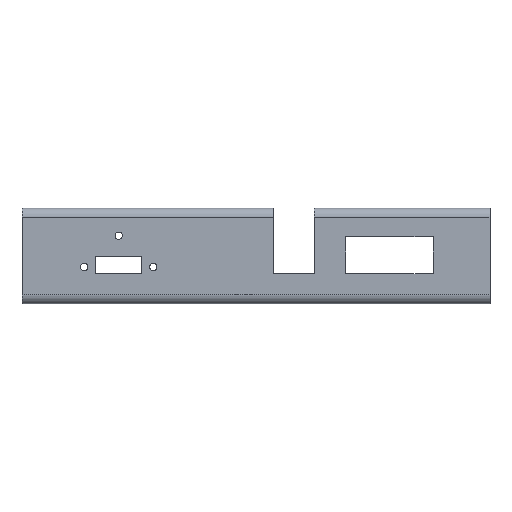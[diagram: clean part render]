
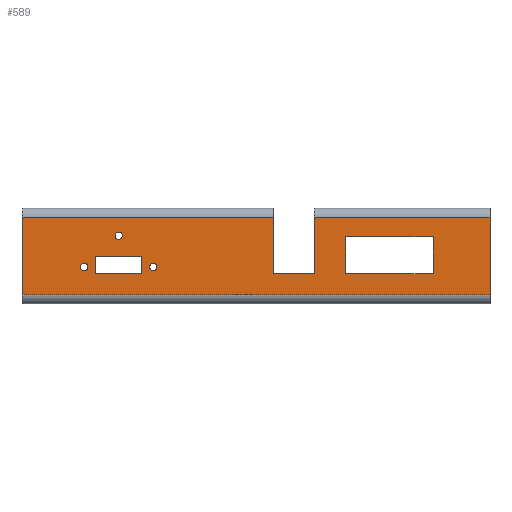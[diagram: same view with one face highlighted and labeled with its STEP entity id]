
A CAD part, front view. The second image highlights one B-rep face of the part: STEP entity #589.
In plain terms, the highlighted planar face has unit normal (0, -1, 0).
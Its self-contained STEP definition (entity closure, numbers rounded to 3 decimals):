
#168 = VERTEX_POINT('',#169);
#169 = CARTESIAN_POINT('',(101.6,0.,0.));
#366 = VERTEX_POINT('',#367);
#367 = CARTESIAN_POINT('',(0.,0.,0.));
#374 = EDGE_CURVE('',#168,#366,#375,.T.);
#375 = LINE('',#376,#377);
#376 = CARTESIAN_POINT('',(101.6,0.,0.));
#377 = VECTOR('',#378,1.);
#378 = DIRECTION('',(-1.,-0.,0.));
#389 = VERTEX_POINT('',#390);
#390 = CARTESIAN_POINT('',(101.6,0.,16.8));
#405 = EDGE_CURVE('',#389,#168,#406,.T.);
#406 = LINE('',#407,#408);
#407 = CARTESIAN_POINT('',(101.6,0.,16.8));
#408 = VECTOR('',#409,1.);
#409 = DIRECTION('',(0.,0.,-1.));
#589 = ADVANCED_FACE('',(#590,#640,#651,#685,#696,#707),#741,.F.);
#590 = FACE_BOUND('',#591,.F.);
#591 = EDGE_LOOP('',(#592,#600,#608,#616,#624,#632,#638,#639));
#592 = ORIENTED_EDGE('',*,*,#593,.T.);
#593 = EDGE_CURVE('',#366,#594,#596,.T.);
#594 = VERTEX_POINT('',#595);
#595 = CARTESIAN_POINT('',(0.,0.,16.8));
#596 = LINE('',#597,#598);
#597 = CARTESIAN_POINT('',(0.,0.,0.));
#598 = VECTOR('',#599,1.);
#599 = DIRECTION('',(0.,0.,1.));
#600 = ORIENTED_EDGE('',*,*,#601,.T.);
#601 = EDGE_CURVE('',#594,#602,#604,.T.);
#602 = VERTEX_POINT('',#603);
#603 = CARTESIAN_POINT('',(54.5,0.,16.8));
#604 = LINE('',#605,#606);
#605 = CARTESIAN_POINT('',(0.,0.,16.8));
#606 = VECTOR('',#607,1.);
#607 = DIRECTION('',(1.,0.,0.));
#608 = ORIENTED_EDGE('',*,*,#609,.F.);
#609 = EDGE_CURVE('',#610,#602,#612,.T.);
#610 = VERTEX_POINT('',#611);
#611 = CARTESIAN_POINT('',(54.5,0.,4.6));
#612 = LINE('',#613,#614);
#613 = CARTESIAN_POINT('',(54.5,0.,4.6));
#614 = VECTOR('',#615,1.);
#615 = DIRECTION('',(0.,0.,1.));
#616 = ORIENTED_EDGE('',*,*,#617,.F.);
#617 = EDGE_CURVE('',#618,#610,#620,.T.);
#618 = VERTEX_POINT('',#619);
#619 = CARTESIAN_POINT('',(63.5,0.,4.6));
#620 = LINE('',#621,#622);
#621 = CARTESIAN_POINT('',(63.5,0.,4.6));
#622 = VECTOR('',#623,1.);
#623 = DIRECTION('',(-1.,0.,0.));
#624 = ORIENTED_EDGE('',*,*,#625,.F.);
#625 = EDGE_CURVE('',#626,#618,#628,.T.);
#626 = VERTEX_POINT('',#627);
#627 = CARTESIAN_POINT('',(63.5,0.,16.8));
#628 = LINE('',#629,#630);
#629 = CARTESIAN_POINT('',(63.5,0.,18.8));
#630 = VECTOR('',#631,1.);
#631 = DIRECTION('',(0.,0.,-1.));
#632 = ORIENTED_EDGE('',*,*,#633,.T.);
#633 = EDGE_CURVE('',#626,#389,#634,.T.);
#634 = LINE('',#635,#636);
#635 = CARTESIAN_POINT('',(0.,0.,16.8));
#636 = VECTOR('',#637,1.);
#637 = DIRECTION('',(1.,0.,0.));
#638 = ORIENTED_EDGE('',*,*,#405,.T.);
#639 = ORIENTED_EDGE('',*,*,#374,.T.);
#640 = FACE_BOUND('',#641,.F.);
#641 = EDGE_LOOP('',(#642));
#642 = ORIENTED_EDGE('',*,*,#643,.T.);
#643 = EDGE_CURVE('',#644,#644,#646,.T.);
#644 = VERTEX_POINT('',#645);
#645 = CARTESIAN_POINT('',(14.3,0.,6.));
#646 = CIRCLE('',#647,0.8);
#647 = AXIS2_PLACEMENT_3D('',#648,#649,#650);
#648 = CARTESIAN_POINT('',(13.5,0.,6.));
#649 = DIRECTION('',(0.,-1.,0.));
#650 = DIRECTION('',(1.,0.,0.));
#651 = FACE_BOUND('',#652,.F.);
#652 = EDGE_LOOP('',(#653,#663,#671,#679));
#653 = ORIENTED_EDGE('',*,*,#654,.F.);
#654 = EDGE_CURVE('',#655,#657,#659,.T.);
#655 = VERTEX_POINT('',#656);
#656 = CARTESIAN_POINT('',(16.,0.,8.4));
#657 = VERTEX_POINT('',#658);
#658 = CARTESIAN_POINT('',(26.,0.,8.4));
#659 = LINE('',#660,#661);
#660 = CARTESIAN_POINT('',(16.,0.,8.4));
#661 = VECTOR('',#662,1.);
#662 = DIRECTION('',(1.,0.,0.));
#663 = ORIENTED_EDGE('',*,*,#664,.F.);
#664 = EDGE_CURVE('',#665,#655,#667,.T.);
#665 = VERTEX_POINT('',#666);
#666 = CARTESIAN_POINT('',(16.,0.,4.6));
#667 = LINE('',#668,#669);
#668 = CARTESIAN_POINT('',(16.,0.,4.6));
#669 = VECTOR('',#670,1.);
#670 = DIRECTION('',(0.,0.,1.));
#671 = ORIENTED_EDGE('',*,*,#672,.F.);
#672 = EDGE_CURVE('',#673,#665,#675,.T.);
#673 = VERTEX_POINT('',#674);
#674 = CARTESIAN_POINT('',(26.,0.,4.6));
#675 = LINE('',#676,#677);
#676 = CARTESIAN_POINT('',(26.,0.,4.6));
#677 = VECTOR('',#678,1.);
#678 = DIRECTION('',(-1.,0.,0.));
#679 = ORIENTED_EDGE('',*,*,#680,.F.);
#680 = EDGE_CURVE('',#657,#673,#681,.T.);
#681 = LINE('',#682,#683);
#682 = CARTESIAN_POINT('',(26.,0.,8.4));
#683 = VECTOR('',#684,1.);
#684 = DIRECTION('',(0.,0.,-1.));
#685 = FACE_BOUND('',#686,.F.);
#686 = EDGE_LOOP('',(#687));
#687 = ORIENTED_EDGE('',*,*,#688,.T.);
#688 = EDGE_CURVE('',#689,#689,#691,.T.);
#689 = VERTEX_POINT('',#690);
#690 = CARTESIAN_POINT('',(29.3,0.,6.));
#691 = CIRCLE('',#692,0.8);
#692 = AXIS2_PLACEMENT_3D('',#693,#694,#695);
#693 = CARTESIAN_POINT('',(28.5,0.,6.));
#694 = DIRECTION('',(0.,-1.,0.));
#695 = DIRECTION('',(1.,0.,0.));
#696 = FACE_BOUND('',#697,.F.);
#697 = EDGE_LOOP('',(#698));
#698 = ORIENTED_EDGE('',*,*,#699,.T.);
#699 = EDGE_CURVE('',#700,#700,#702,.T.);
#700 = VERTEX_POINT('',#701);
#701 = CARTESIAN_POINT('',(21.8,0.,12.8));
#702 = CIRCLE('',#703,0.8);
#703 = AXIS2_PLACEMENT_3D('',#704,#705,#706);
#704 = CARTESIAN_POINT('',(21.,0.,12.8));
#705 = DIRECTION('',(0.,-1.,0.));
#706 = DIRECTION('',(1.,0.,0.));
#707 = FACE_BOUND('',#708,.F.);
#708 = EDGE_LOOP('',(#709,#719,#727,#735));
#709 = ORIENTED_EDGE('',*,*,#710,.F.);
#710 = EDGE_CURVE('',#711,#713,#715,.T.);
#711 = VERTEX_POINT('',#712);
#712 = CARTESIAN_POINT('',(70.25,0.,12.6));
#713 = VERTEX_POINT('',#714);
#714 = CARTESIAN_POINT('',(89.25,0.,12.6));
#715 = LINE('',#716,#717);
#716 = CARTESIAN_POINT('',(70.25,0.,12.6));
#717 = VECTOR('',#718,1.);
#718 = DIRECTION('',(1.,0.,0.));
#719 = ORIENTED_EDGE('',*,*,#720,.F.);
#720 = EDGE_CURVE('',#721,#711,#723,.T.);
#721 = VERTEX_POINT('',#722);
#722 = CARTESIAN_POINT('',(70.25,0.,4.6));
#723 = LINE('',#724,#725);
#724 = CARTESIAN_POINT('',(70.25,0.,4.6));
#725 = VECTOR('',#726,1.);
#726 = DIRECTION('',(0.,0.,1.));
#727 = ORIENTED_EDGE('',*,*,#728,.F.);
#728 = EDGE_CURVE('',#729,#721,#731,.T.);
#729 = VERTEX_POINT('',#730);
#730 = CARTESIAN_POINT('',(89.25,0.,4.6));
#731 = LINE('',#732,#733);
#732 = CARTESIAN_POINT('',(89.25,0.,4.6));
#733 = VECTOR('',#734,1.);
#734 = DIRECTION('',(-1.,0.,0.));
#735 = ORIENTED_EDGE('',*,*,#736,.F.);
#736 = EDGE_CURVE('',#713,#729,#737,.T.);
#737 = LINE('',#738,#739);
#738 = CARTESIAN_POINT('',(89.25,0.,12.6));
#739 = VECTOR('',#740,1.);
#740 = DIRECTION('',(0.,0.,-1.));
#741 = PLANE('',#742);
#742 = AXIS2_PLACEMENT_3D('',#743,#744,#745);
#743 = CARTESIAN_POINT('',(50.8,0.,8.4));
#744 = DIRECTION('',(0.,1.,0.));
#745 = DIRECTION('',(0.,0.,1.));
